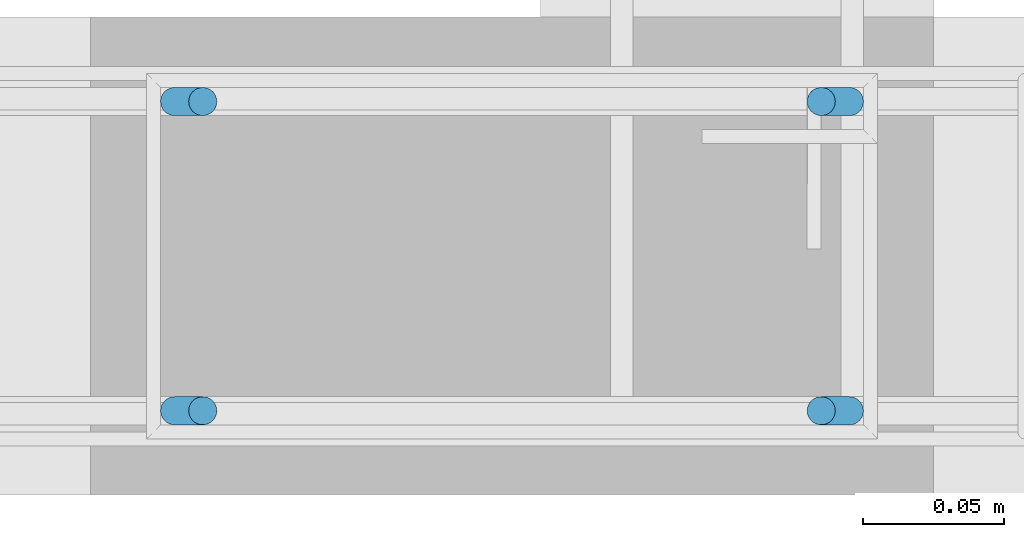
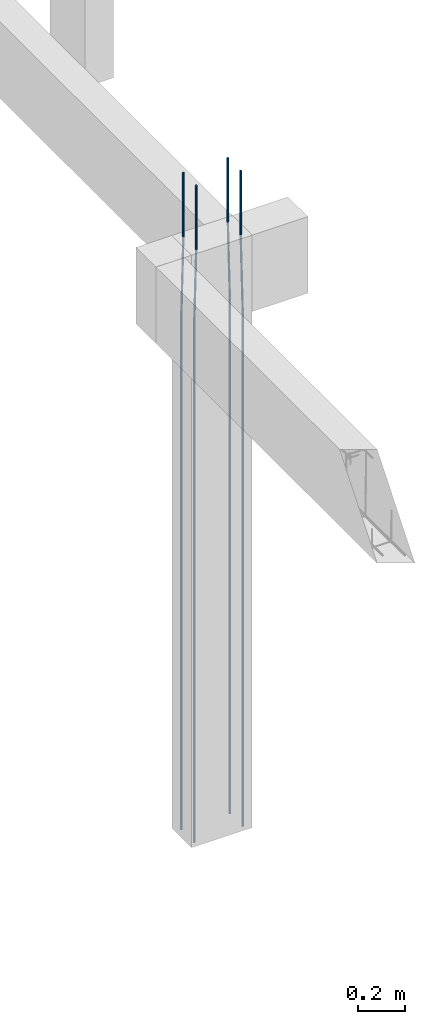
# One storey, part 121 of 236: 4 reinforcing bars.
"""IFC4 building model written with IfcOpenShell, lengths in centimetres."""

import ifcopenshell
import ifcopenshell.guid

model = None  # the IFC model being written
_history = None  # IfcOwnerHistory: only IFC2X3 demands one
_inside = {}  # id of a spatial element -> (the spatial element, [elements in it])
_under = {}  # id of a project, library or spatial element -> (it, [spatial elements below it])
_declared = {}  # id of a project -> (the project, [libraries it declares])
_typed = {}  # id of a type object -> (the type object, [elements of that type])
_made_of = {}  # id of a material, layer set ... -> (it, [elements and type objects made of it])


def new_model(schema):
    """Start an empty IFC model of exactly this schema.

    Asked for "IFC4X3", IfcOpenShell would pick the latest addendum, in which some entities
    have other attributes; the version numbers below select the first issue.
    IFC2X3 requires an IfcOwnerHistory on every rooted entity: one is made here for all.
    """
    global model, _history
    if schema == "IFC4X3":
        model = ifcopenshell.file(schema_version=(4, 3, 0, 0))
    else:
        model = ifcopenshell.file(schema=schema)
    _inside.clear()
    _under.clear()
    _declared.clear()
    _typed.clear()
    _made_of.clear()
    _history = None
    if model.schema == "IFC2X3":
        org = make("IfcOrganization", Name="unknown")
        user = make(
            "IfcPersonAndOrganization",
            ThePerson=make("IfcPerson", FamilyName="unknown"),
            TheOrganization=org,
        )
        app = make(
            "IfcApplication",
            ApplicationDeveloper=org,
            Version="unknown",
            ApplicationFullName="unknown",
            ApplicationIdentifier="unknown",
        )
        _history = make(
            "IfcOwnerHistory",
            OwningUser=user,
            OwningApplication=app,
            ChangeAction="ADDED",
            CreationDate=0,
        )
    return model


def make(cls, **values):
    """One entity of the class cls with the attributes given. An attribute that is None is left unset."""
    return model.create_entity(
        cls, **{name: value for name, value in values.items() if value is not None}
    )


def entity(cls, *values):
    """Any entity or typed value of the class cls, its attributes in the order of the schema. None: left unset."""
    e = model.create_entity(cls)
    for i, value in enumerate(values):
        if value is not None:
            e[i] = value
    return e


def rooted(cls, **values):
    """An entity with a GlobalId (a new one), such as an element, a storey or a relation."""
    return make(cls, GlobalId=ifcopenshell.guid.new(), OwnerHistory=_history, **values)


def si_unit(unit_type, name, prefix=None):
    """IfcSIUnit, for example si_unit("LENGTHUNIT", "METRE", prefix="MILLI")."""
    return make("IfcSIUnit", UnitType=unit_type, Prefix=prefix, Name=name)


def derived_unit(unit_type, elements):
    """IfcDerivedUnit: a product of units, each with its exponent."""
    return make(
        "IfcDerivedUnit",
        Elements=[
            make("IfcDerivedUnitElement", Unit=unit, Exponent=power)
            for unit, power in elements
        ],
        UnitType=unit_type,
    )


def assignment(units):
    """IfcUnitAssignment: the units of a project."""
    return None if units is None else make("IfcUnitAssignment", Units=units)


def point(xyz):
    """IfcCartesianPoint."""
    return None if xyz is None else make("IfcCartesianPoint", Coordinates=xyz)


def direction(xyz):
    """IfcDirection."""
    return None if xyz is None else make("IfcDirection", DirectionRatios=xyz)


def frame(location, z_axis=None, x_axis=None):
    """IfcAxis2Placement3D, a coordinate frame: its origin and axes. An axis left out is left unset."""
    return make(
        "IfcAxis2Placement3D",
        Location=point(location),
        Axis=direction(z_axis),
        RefDirection=direction(x_axis),
    )


def origin_with_axes():
    """The frame at (0, 0, 0) with the z axis (0, 0, 1) and the x axis (1, 0, 0) written out."""
    return frame((0.0, 0.0, 0.0), z_axis=(0.0, 0.0, 1.0), x_axis=(1.0, 0.0, 0.0))


def place(relative_to, where):
    """IfcLocalPlacement: puts the frame where relative to a parent placement (None: the world)."""
    return make(
        "IfcLocalPlacement", PlacementRelTo=relative_to, RelativePlacement=where
    )


def context(
    kind, dimensions, precision=None, world=None, true_north=None, identifier=None
):
    """IfcGeometricRepresentationContext, for example the 3D "Model" context."""
    return make(
        "IfcGeometricRepresentationContext",
        ContextIdentifier=identifier,
        ContextType=kind,
        CoordinateSpaceDimension=dimensions,
        Precision=precision,
        WorldCoordinateSystem=world,
        TrueNorth=true_north,
    )


def project(units=None, contexts=None):
    """IfcProject with its units and contexts."""
    return rooted(
        "IfcProject",
        Name="project",
        RepresentationContexts=contexts,
        UnitsInContext=assignment(units),
    )


def spatial(cls, under=None, at=None, **own):
    """A site, building, storey or space (cls), placed at a placement, below another one or the project."""
    s = rooted(cls, ObjectPlacement=at, **own)
    if under is not None:
        _under.setdefault(under.id(), (under, []))[1].append(s)
    return s


def shape(context_of_items, identifier, shape_type, items):
    """IfcShapeRepresentation: the items that make up one representation, for example the "Body"."""
    return make(
        "IfcShapeRepresentation",
        ContextOfItems=context_of_items,
        RepresentationIdentifier=identifier,
        RepresentationType=shape_type,
        Items=items,
    )


def made_of(thing, what):
    """Note that an element or type object is made of a material, layer set ...; save() writes the relation."""
    if what is not None:
        _made_of.setdefault(what.id(), (what, []))[1].append(thing)
    return thing


def element(
    cls,
    number,
    at=None,
    inside=None,
    cuts=None,
    type_object=None,
    material=None,
    context=None,
    identifier="Body",
    shape_type=None,
    held_by="IfcProductDefinitionShape",
    body=None,
    shapes=None,
    **own,
):
    """One element of the class cls, such as IfcWall. Its Tag is "e" and its number.

    at: its placement. inside: the storey or other place that contains it. cuts: it is an
    opening in that element (IfcRelVoidsElement). A single representation is given by context,
    identifier, shape_type and body (its items); several are given by shapes. held_by: the class
    of the entity that holds the representations. save() writes the other relations.
    """
    e = rooted(cls, Tag="e%d" % number, ObjectPlacement=at, **own)
    if body is not None:
        shapes = [shape(context, identifier, shape_type, body)]
    if shapes is not None:
        e.Representation = make(held_by, Representations=shapes)
    if inside is not None:
        _inside.setdefault(inside.id(), (inside, []))[1].append(e)
    if cuts is not None:
        rooted(
            "IfcRelVoidsElement", RelatingBuildingElement=cuts, RelatedOpeningElement=e
        )
    if type_object is not None:
        _typed.setdefault(type_object.id(), (type_object, []))[1].append(e)
    return made_of(e, material)


def aggregate(whole, parts):
    """IfcRelAggregates: a whole, such as a stair, and the parts it consists of."""
    return rooted("IfcRelAggregates", RelatingObject=whole, RelatedObjects=parts)


def save(model, path):
    """Write the relations noted so far, then the file.

    IfcRelAggregates (storeys below a building ...), IfcRelContainedInSpatialStructure (elements
    in a storey), IfcRelDefinesByType, IfcRelAssociatesMaterial and IfcRelDeclares: one each for
    every whole, place, type object, material and project.
    """
    for whole, parts in _under.values():
        aggregate(whole, parts)
    for where, things in _inside.values():
        rooted(
            "IfcRelContainedInSpatialStructure",
            RelatedElements=things,
            RelatingStructure=where,
        )
    for kind, things in _typed.values():
        rooted("IfcRelDefinesByType", RelatedObjects=things, RelatingType=kind)
    for what, things in _made_of.values():
        rooted("IfcRelAssociatesMaterial", RelatedObjects=things, RelatingMaterial=what)
    for by, libraries in _declared.values():
        rooted("IfcRelDeclares", RelatingContext=by, RelatedDefinitions=libraries)
    model.write(path)


model = new_model("IFC4")

# Units and contexts
model_context = context("Model", 3, precision=1e-05, world=origin_with_axes(), identifier="Body")
ifc_project = project(units=[si_unit("LENGTHUNIT", "METRE", prefix="CENTI"), si_unit("VOLUMEUNIT", "CUBIC_METRE"), si_unit("AREAUNIT", "SQUARE_METRE"), si_unit("POWERUNIT", "WATT"), si_unit("LUMINOUSFLUXUNIT", "LUMEN"), si_unit("ELECTRICCURRENTUNIT", "AMPERE"), si_unit("PRESSUREUNIT", "PASCAL", prefix="KILO"), si_unit("MASSUNIT", "GRAM", prefix="KILO"), si_unit("PLANEANGLEUNIT", "RADIAN"), derived_unit("VOLUMETRICFLOWRATEUNIT", [(si_unit("LENGTHUNIT", "METRE"), 3), (si_unit("TIMEUNIT", "SECOND"), -1)])], contexts=[model_context])

# Site, building, storey
site_placement = place(None, frame((-4000.0, 0.0, 0.0), z_axis=(0.0, 0.0, 1.0), x_axis=(1.0, 0.0, 0.0)))
site = spatial("IfcSite", under=ifc_project, at=site_placement, Name="PADRÃO")
building_placement = place(site_placement, frame((0.0, 0.0, -14.0)))
building = spatial("IfcBuilding", under=site, at=building_placement, Name="CRECHE PRÉ-ESCOLA TIPO 2")
placement_1 = place(building_placement, origin_with_axes())
placement_2 = place(placement_1, frame((0.0, 0.0, 30.0), z_axis=(0.0, 0.0, 1.0), x_axis=(1.0, 0.0, 0.0)))
storey_placement = place(placement_2, frame((0.0, 0.0, 310.0), z_axis=(0.0, 0.0, 1.0), x_axis=(1.0, 0.0, 0.0)))
storey = spatial("IfcBuildingStorey", under=building, at=storey_placement, Name="TERREO", CompositionType="ELEMENT", Elevation=326.0)

# Reinforcing bars
for number, where, z_axis, x_axis, name in (
    (1, (278.51, 3475.5, 33.3573001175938), (0.0, 0.0, 1.0), (1.0, 0.0, 0.0), "P36 - Longitudinal"),
    (2, (278.51, 3464.5, 33.3573001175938), (0.0, 0.0, 1.0), (1.0, 0.0, 0.0), "P36 - Longitudinal"),
):
    element("IfcReinforcingBar", number, at=place(storey_placement, frame(where, z_axis=z_axis, x_axis=x_axis)), inside=storey, Name=name, BarLength=0.0, CrossSectionArea=7.853981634e-05, NominalDiameter=1.0, PredefinedType="MAIN", context=model_context, shape_type="AdvancedSweptSolid", body=[
        entity("IfcSweptDiskSolid", entity("IfcCompositeCurve", [entity("IfcCompositeCurveSegment", "CONTINUOUS", True, entity("IfcPolyline", [entity("IfcCartesianPoint", [0.5, 0.0, -343.357300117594]), entity("IfcCartesianPoint", [0.5, 0.0, -73.3573001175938])])), entity("IfcCompositeCurveSegment", "CONTINUOUS", True, entity("IfcPolyline", [entity("IfcCartesianPoint", [0.5, 0.0, -73.3573001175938]), entity("IfcCartesianPoint", [-0.5, 0.0, -33.3573001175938])])), entity("IfcCompositeCurveSegment", "CONTINUOUS", True, entity("IfcPolyline", [entity("IfcCartesianPoint", [-0.5, 0.0, -33.3573001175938]), entity("IfcCartesianPoint", [-0.5, 0.0, 0.0])]))], False), 0.5),
    ])
for number, where, z_axis, x_axis, name in (
    (3, (255.51, 3464.5, 33.3573001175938), (0.0, 0.0, 1.0), (1.0, 0.0, 0.0), "P36 - Longitudinal"),
    (4, (255.51, 3475.5, 33.3573001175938), (0.0, 0.0, 1.0), (1.0, 0.0, 0.0), "P36 - Longitudinal"),
):
    element("IfcReinforcingBar", number, at=place(storey_placement, frame(where, z_axis=z_axis, x_axis=x_axis)), inside=storey, Name=name, BarLength=0.0, CrossSectionArea=7.853981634e-05, NominalDiameter=1.0, PredefinedType="MAIN", context=model_context, shape_type="AdvancedSweptSolid", body=[
        entity("IfcSweptDiskSolid", entity("IfcCompositeCurve", [entity("IfcCompositeCurveSegment", "CONTINUOUS", True, entity("IfcPolyline", [entity("IfcCartesianPoint", [-0.5, 0.0, -343.357300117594]), entity("IfcCartesianPoint", [-0.5, 0.0, -73.3573001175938])])), entity("IfcCompositeCurveSegment", "CONTINUOUS", True, entity("IfcPolyline", [entity("IfcCartesianPoint", [-0.5, 0.0, -73.3573001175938]), entity("IfcCartesianPoint", [0.5, 0.0, -33.3573001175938])])), entity("IfcCompositeCurveSegment", "CONTINUOUS", True, entity("IfcPolyline", [entity("IfcCartesianPoint", [0.5, 0.0, -33.3573001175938]), entity("IfcCartesianPoint", [0.5, 0.0, 0.0])]))], False), 0.5),
    ])

save(model, "model.ifc")
